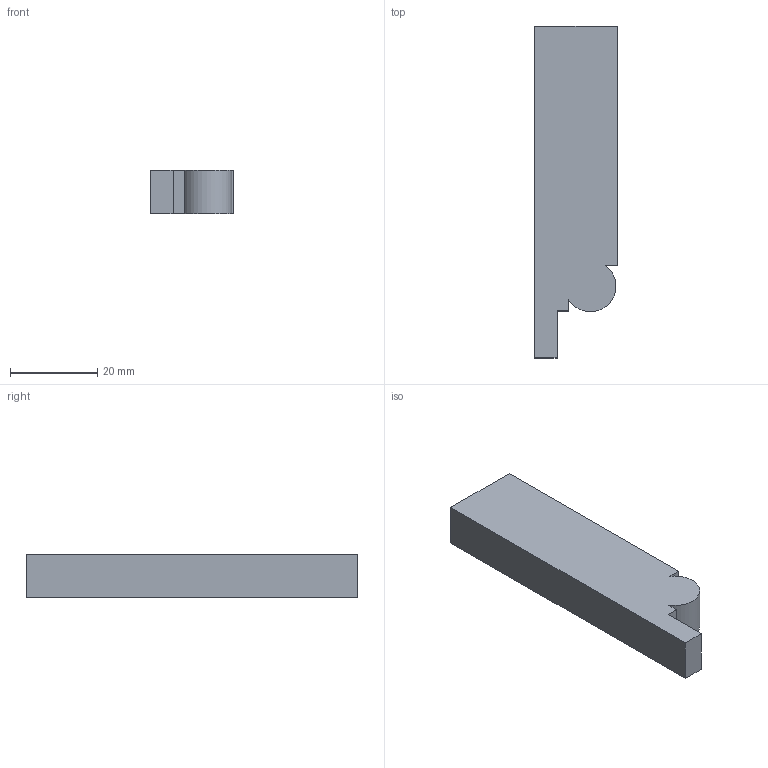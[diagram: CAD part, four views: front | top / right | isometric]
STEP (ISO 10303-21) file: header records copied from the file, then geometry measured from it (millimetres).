
FILE_DESCRIPTION (( 'STEP AP203' ), '1' );
FILE_NAME ('AB82.STEP', '2024-02-16T18:02:39', ( '' ), ( '' ), 'SwSTEP 2.0', 'SolidWorks 2020', '' );
FILE_SCHEMA (( 'CONFIG_CONTROL_DESIGN' ));
Length unit declared in the file: millimetre
Products named in the file (1): AB82
Bounding box: 19.05 x 76.2 x 10 mm (x, y, z)
Volume: 12853.8 mm3; surface area: 4519.7 mm2
Topology: 1 solids, 1 shells, 11 faces, 27 edges, 18 vertices
Faces by surface type: plane 10, cylinder 1
Entity records: 400 total; most frequent: CARTESIAN_POINT 57, ORIENTED_EDGE 54, DIRECTION 53, EDGE_CURVE 27, LINE 25, VECTOR 25, VERTEX_POINT 18, AXIS2_PLACEMENT_3D 14
